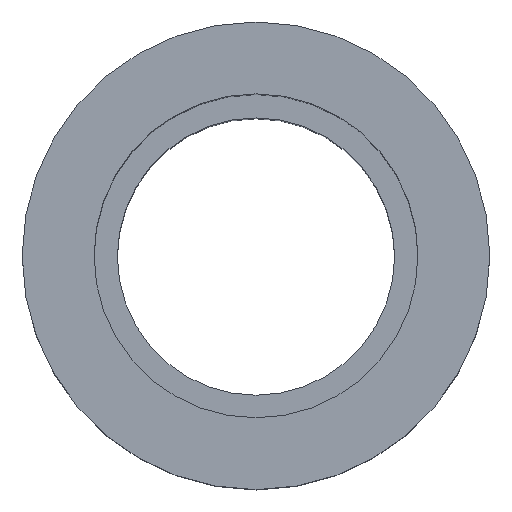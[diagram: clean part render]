
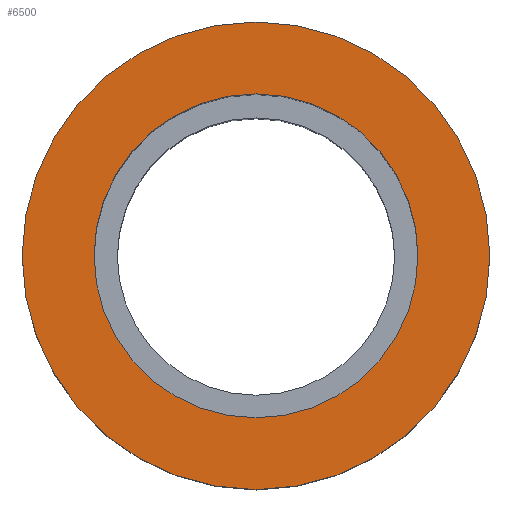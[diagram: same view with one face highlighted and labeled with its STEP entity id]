
A CAD part, top view. The second image highlights one B-rep face of the part: STEP entity #6500.
In plain terms, the highlighted planar face has unit normal (0, 0, 1).
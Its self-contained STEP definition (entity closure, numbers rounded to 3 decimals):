
#620=CARTESIAN_POINT('',(74.051,35.657,20.1));
#630=VERTEX_POINT('',#620);
#680=CARTESIAN_POINT('',(74.051,46.757,20.1));
#690=DIRECTION('',(0.,0.,-1.));
#700=DIRECTION('',(0.,1.,0.));
#710=AXIS2_PLACEMENT_3D('',#680,#690,#700);
#720=CIRCLE('',#710,11.1);
#730=CARTESIAN_POINT('',(74.051,57.857,20.1));
#740=VERTEX_POINT('',#730);
#750=EDGE_CURVE('',#630,#740,#720,.T.);
#5270=CARTESIAN_POINT('',(74.051,30.732,20.1));
#5280=VERTEX_POINT('',#5270);
#5500=CARTESIAN_POINT('',(74.051,62.782,20.1));
#5510=VERTEX_POINT('',#5500);
#5540=CARTESIAN_POINT('',(74.051,46.757,20.1));
#5550=DIRECTION('',(0.,0.,-1.));
#5560=DIRECTION('',(0.,1.,0.));
#5570=AXIS2_PLACEMENT_3D('',#5540,#5550,#5560);
#5580=CIRCLE('',#5570,16.025);
#5590=EDGE_CURVE('',#5280,#5510,#5580,.T.);
#6350=CARTESIAN_POINT('',(74.051,31.957,20.1));
#6360=DIRECTION('',(0.,0.,1.));
#6370=DIRECTION('',(0.,1.,0.));
#6380=AXIS2_PLACEMENT_3D('',#6350,#6360,#6370);
#6390=PLANE('',#6380);
#6400=EDGE_CURVE('',#740,#630,#720,.T.);
#6410=ORIENTED_EDGE('',*,*,#6400,.T.);
#6420=ORIENTED_EDGE('',*,*,#750,.T.);
#6430=EDGE_LOOP('',(#6420,#6410));
#6440=FACE_BOUND('',#6430,.T.);
#6450=EDGE_CURVE('',#5510,#5280,#5580,.T.);
#6460=ORIENTED_EDGE('',*,*,#6450,.F.);
#6470=ORIENTED_EDGE('',*,*,#5590,.F.);
#6480=EDGE_LOOP('',(#6470,#6460));
#6490=FACE_OUTER_BOUND('',#6480,.T.);
#6500=ADVANCED_FACE('',(#6440,#6490),#6390,.T.);
